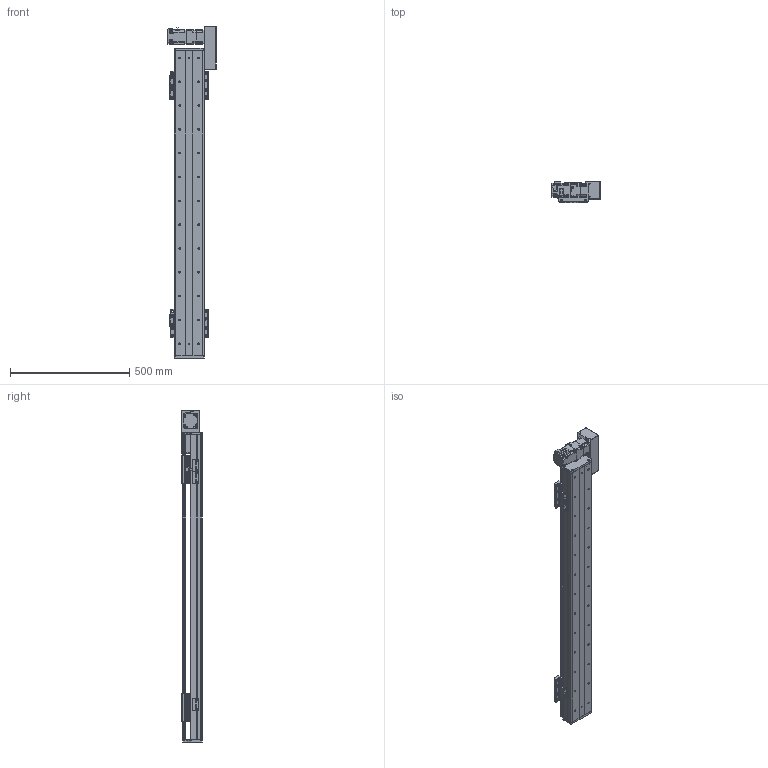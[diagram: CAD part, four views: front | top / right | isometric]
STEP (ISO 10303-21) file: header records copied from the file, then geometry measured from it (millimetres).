
FILE_DESCRIPTION(/* description */ (''),/* implementation_level */ '2;1');
FILE_NAME(/* name */ 'C:\Users\PC\Desktop\3D도면\STEP\STEP\DSB125-R2G-W1000-L.stp',/* time_stamp */ '2018-06-13T15:58:09+09:00',/* author */ ('PC'),/* organization */ (''),/* preprocessor_version */ 'ST-DEVELOPER v16.5',/* originating_system */ 'Autodesk Inventor 2017',/* authorisation */ '');
FILE_SCHEMA (('AUTOMOTIVE_DESIGN { 1 0 10303 214 3 1 1 }'));
Length unit declared in the file: millimetre
Products named in the file (12): DSB125-L2G-W1000-R_MIR; DSB125-BASE_MIR; DSB125-FRONT COVER_MIR; DSB125-REAR COVER_MIR; DSB125-UP COVER_MIR; DSB125-TABLE(MSB15S)_MIR; hg-kr23__MIR; ab0601-p0401200402_MIR; 13-BELT COVER_MIR; DSR125-SENSOR DOG_MIR; pm-y65_step_MIR; SENSOR BRACKET(EE-SX674A)_MIR
Assembly tree (16 placements, depth 2):
  DSB125-L2G-W1000-R_MIR
    DSB125-BASE_MIR
    DSB125-FRONT COVER_MIR
    DSB125-REAR COVER_MIR
    DSB125-UP COVER_MIR
    DSB125-TABLE(MSB15S)_MIR  x2
    hg-kr23__MIR
    ab0601-p0401200402_MIR
    13-BELT COVER_MIR
    DSR125-SENSOR DOG_MIR
    pm-y65_step_MIR  x3
    SENSOR BRACKET(EE-SX674A)_MIR  x3
Bounding box: 202.1 x 88 x 1394 mm (x, y, z)
Volume: 4819336 mm3; surface area: 1388243.7 mm2
Topology: 17 solids, 17 shells, 1663 faces, 4510 edges, 2972 vertices
Faces by surface type: plane 903, cylinder 632, cone 116, sphere 8, torus 4
Full cylindrical faces by diameter (mm): 2.459 x20, 3.242 x16, 3.5 x6, 4 x1, 4.134 x16, 4.2 x4, 4.3 x1, 4.5 x50, 4.917 x20, 5 x22, 5.3 x1, 5.5 x4, 5.6 x8, 5.8 x4, 5.9 x8, 6 x4, 6.6 x22, 6.647 x26, 7.5 x32, 8.5 x8, 8.7 x1, 11 x22, 14 x1, 16 x2, 17 x1, 20 x1, 47 x1, 50 x3
Entity records: 36053 total; most frequent: CARTESIAN_POINT 6495, DIRECTION 6122, ORIENTED_EDGE 5482, EDGE_CURVE 2741, AXIS2_PLACEMENT_3D 2249, VERTEX_POINT 1950, EDGE_LOOP 1677, LINE 1624
